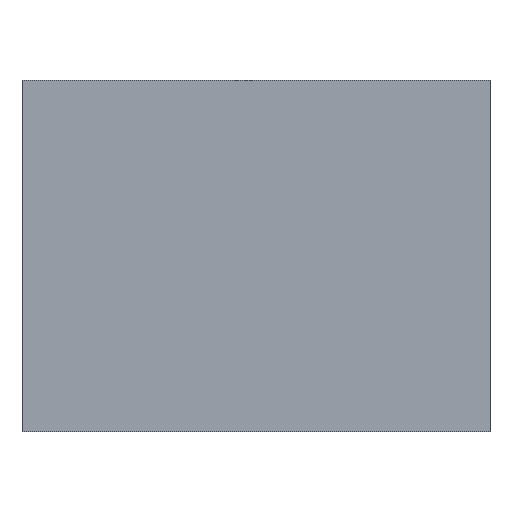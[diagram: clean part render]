
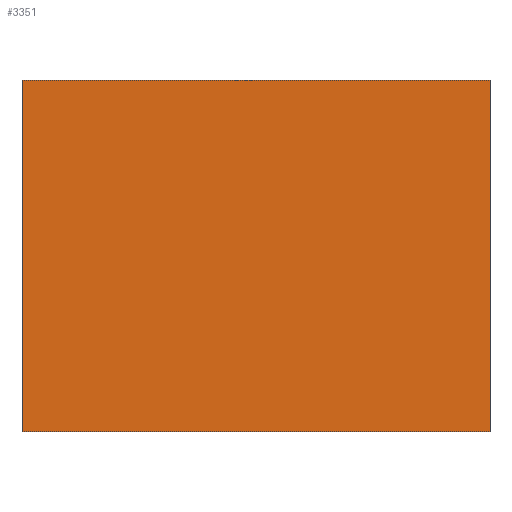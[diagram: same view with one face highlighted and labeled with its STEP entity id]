
A CAD part, top view. The second image highlights one B-rep face of the part: STEP entity #3351.
In plain terms, the highlighted planar face has unit normal (0, 0, 1).
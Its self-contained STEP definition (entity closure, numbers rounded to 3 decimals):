
#3215=CARTESIAN_POINT('Vertex',(100.5,75.5,21.)) ;
#3229=CARTESIAN_POINT('Vertex',(-100.5,75.5,21.)) ;
#3232=CARTESIAN_POINT('Line Origine',(0.,75.5,21.)) ;
#3260=CARTESIAN_POINT('Vertex',(-100.5,-75.5,21.)) ;
#3263=CARTESIAN_POINT('Line Origine',(-100.5,0.,21.)) ;
#3291=CARTESIAN_POINT('Vertex',(100.5,-75.5,21.)) ;
#3294=CARTESIAN_POINT('Line Origine',(0.,-75.5,21.)) ;
#3316=CARTESIAN_POINT('Line Origine',(100.5,0.,21.)) ;
#3340=CARTESIAN_POINT('Axis2P3D Location',(0.,0.,21.)) ;
#3233=DIRECTION('Vector Direction',(1.,0.,0.)) ;
#3264=DIRECTION('Vector Direction',(0.,1.,0.)) ;
#3295=DIRECTION('Vector Direction',(-1.,0.,0.)) ;
#3317=DIRECTION('Vector Direction',(0.,-1.,0.)) ;
#3341=DIRECTION('Axis2P3D Direction',(0.,0.,1.)) ;
#3342=DIRECTION('Axis2P3D XDirection',(1.,0.,0.)) ;
#3343=AXIS2_PLACEMENT_3D('Plane Axis2P3D',#3340,#3341,#3342) ;
#3346=ORIENTED_EDGE('',*,*,#3236,.T.) ;
#3347=ORIENTED_EDGE('',*,*,#3267,.T.) ;
#3348=ORIENTED_EDGE('',*,*,#3298,.T.) ;
#3349=ORIENTED_EDGE('',*,*,#3320,.T.) ;
#3234=VECTOR('Line Direction',#3233,1.) ;
#3265=VECTOR('Line Direction',#3264,1.) ;
#3296=VECTOR('Line Direction',#3295,1.) ;
#3318=VECTOR('Line Direction',#3317,1.) ;
#3351=ADVANCED_FACE('cavity',(#3350),#3344,.T.) ;
#3236=EDGE_CURVE('',#3216,#3230,#3235,.F.) ;
#3267=EDGE_CURVE('',#3230,#3261,#3266,.F.) ;
#3298=EDGE_CURVE('',#3261,#3292,#3297,.F.) ;
#3320=EDGE_CURVE('',#3292,#3216,#3319,.F.) ;
#3345=EDGE_LOOP('',(#3346,#3347,#3348,#3349)) ;
#3350=FACE_OUTER_BOUND('',#3345,.T.) ;
#3235=LINE('Line',#3232,#3234) ;
#3266=LINE('Line',#3263,#3265) ;
#3297=LINE('Line',#3294,#3296) ;
#3319=LINE('Line',#3316,#3318) ;
#3344=PLANE('Plane',#3343) ;
#3216=VERTEX_POINT('',#3215) ;
#3230=VERTEX_POINT('',#3229) ;
#3261=VERTEX_POINT('',#3260) ;
#3292=VERTEX_POINT('',#3291) ;
